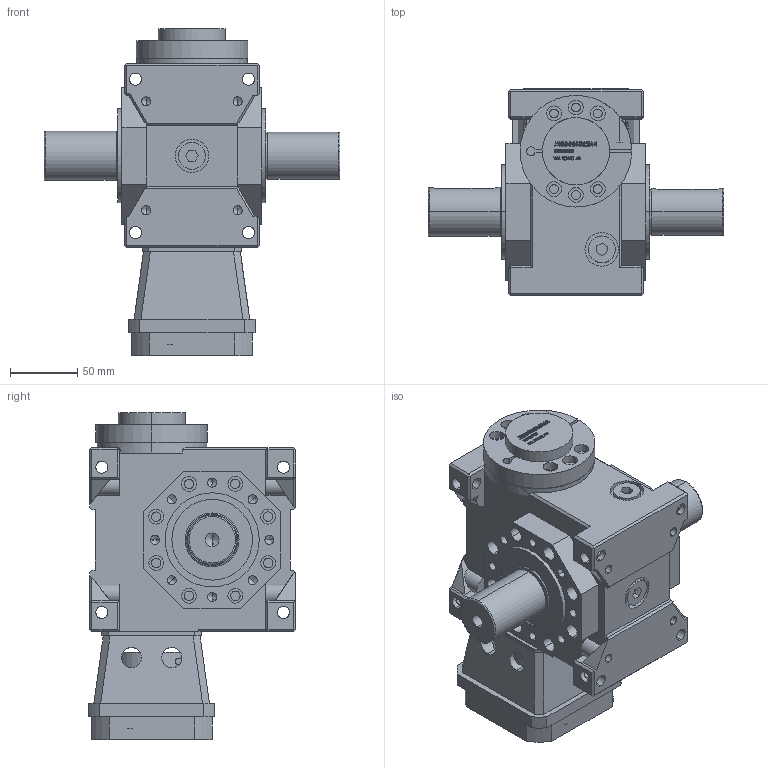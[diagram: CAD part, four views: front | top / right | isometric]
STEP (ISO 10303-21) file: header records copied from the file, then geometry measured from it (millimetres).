
FILE_DESCRIPTION (( 'STEP AP203' ), '1' );
FILE_NAME ('FXLB045-(5~90)-AB-19-70-90-M6.step', '2022-11-06T03:37:16', ( '' ), ( '' ), 'SwSTEP 2.0', 'SolidWorks 2020', '' );
FILE_SCHEMA (( 'CONFIG_CONTROL_DESIGN' ));
Length unit declared in the file: millimetre
Products named in the file (8): JDLB050-AB________35.step; JDLB045-ST94________.step; JDLB045-CR____.step; FXLB045-(5~90)-AB-19-70-90-M6; 錨璃120^FXLB045-(5~90)-AB-19-70-90-M6; ______BD56-60-19-15____.step; ST90-70-90-M6____________.step; FXLB045-(5~90)-AB-19-70-90-M6.step
Assembly tree (7 placements, depth 3):
  FXLB045-(5~90)-AB-19-70-90-M6
    FXLB045-(5~90)-AB-19-70-90-M6.step
      JDLB045-CR____.step
      JDLB045-ST94________.step
      ST90-70-90-M6____________.step
      ______BD56-60-19-15____.step
      JDLB050-AB________35.step
    錨璃120^FXLB045-(5~90)-AB-19-70-90-M6
Bounding box: 219.87 x 154 x 243.2 mm (x, y, z)
Volume: 2334949.8 mm3; surface area: 323286.9 mm2
Topology: 82 solids, 82 shells, 2650 faces, 6991 edges, 4563 vertices
Faces by surface type: plane 1548, bspline 572, cylinder 424, cone 82, torus 24
Entity records: 109651 total; most frequent: CARTESIAN_POINT 46740, ORIENTED_EDGE 13850, DIRECTION 10790, EDGE_CURVE 6925, VECTOR 4764, LINE 4764, VERTEX_POINT 4563, AXIS2_PLACEMENT_3D 3013
